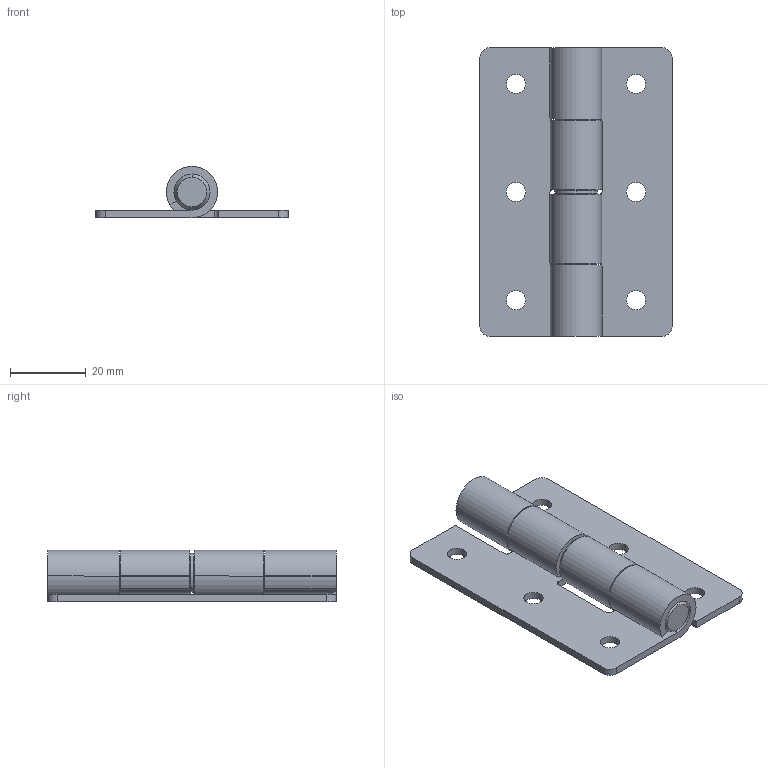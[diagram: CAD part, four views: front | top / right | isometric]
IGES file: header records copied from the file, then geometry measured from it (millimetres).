
Start section: 3D InterOp IGES (Version 24 0 2), Spatial Corp. Copyright (c) 1999-2007.
Global section: file name: 30000701.igs; native system: Spatial Corp.; preprocessor: 3D InterOp GENERIC/IGES 3.0; author: Noname; organization: Noname; date: 20191022.142535; units: millimetre
Bounding box: 50.8 x 76.2 x 13.54 mm (x, y, z)
Surface area: 14942.1 mm2 (no closed solid volume)
Topology: 0 solids, 0 shells, 100 faces, 532 edges, 532 vertices
Faces by surface type: revolution 64, extrusion 36
